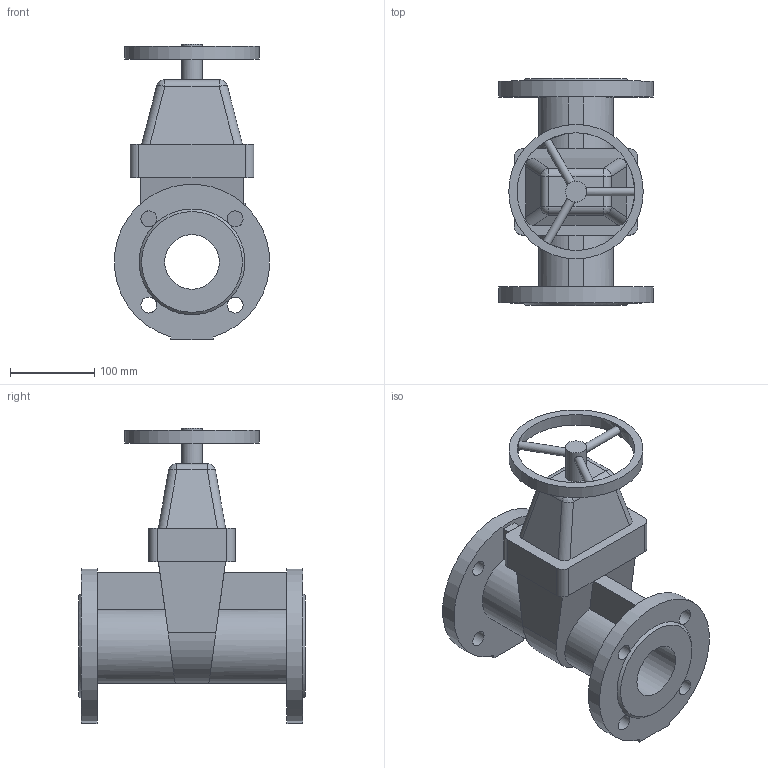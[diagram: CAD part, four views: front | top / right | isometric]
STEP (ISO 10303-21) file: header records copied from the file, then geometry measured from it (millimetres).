
FILE_DESCRIPTION(('STEP AP203'), '1');
FILE_NAME('Çàäâèæêà 47GV DN65 PN10_PN16_L270 ñ ìàõîâèêîì', '', ('UNSPECIFIED'), ('UNSPECIFIED'), 'ASCON STEP Converter 1.6', 'ASCON Math Kernel', '');
FILE_SCHEMA(('CONFIG_CONTROL_DESIGN'));
Length unit declared in the file: millimetre
Bounding box: 184.4 x 270 x 351.5 mm (x, y, z)
Volume: 3573294 mm3; surface area: 361722.9 mm2
Topology: 1 solids, 1 shells, 93 faces, 245 edges, 153 vertices
Faces by surface type: plane 47, cylinder 40, bspline 4, cone 2
Full cylindrical faces by diameter (mm): 10 x3, 19 x8, 25 x1, 65 x1, 140 x1, 160 x1
Entity records: 4442 total; most frequent: CARTESIAN_POINT 1508, DIRECTION 436, ORIENTED_EDGE 412, EDGE_CURVE 206, AXIS2_PLACEMENT_3D 158, EDGE_LOOP 146, VERTEX_POINT 144, LINE 120
